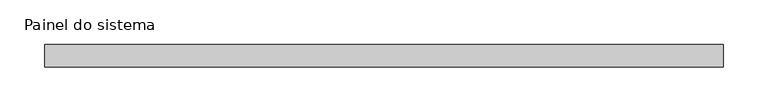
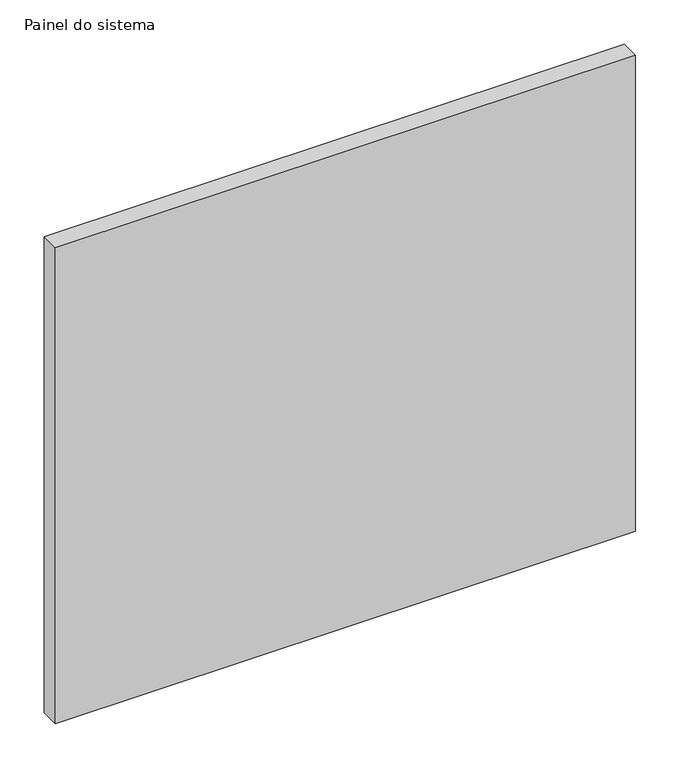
"""IFC4 building model written with IfcOpenShell, lengths in millimetres: plate geometry, Painel do sistema : Envidraçado."""

from ifc_helpers import new_model, si_unit, origin, origin_with_axes, place, context, project, spatial, polyline, outline, extrude, source, transform, mapped, element, save


def painel_do_sistema_507937a2(model_context):
    return source(origin(), model_context, "Body", "SweptSolid", [
        extrude(outline(polyline([(377.5, 24.5), (-377.5, 24.5), (-377.5, 49.5), (377.5, 49.5), (377.5, 24.5)])), origin_with_axes(), (0.0, 0.0, 1.0), 655.0),
    ])


if __name__ == "__main__":
    model = new_model("IFC4")
    model_context = context("Model", 3, world=origin())
    ifc_project = project(units=[si_unit("LENGTHUNIT", "METRE", prefix="MILLI")], contexts=[model_context])
    site = spatial("IfcSite", under=ifc_project)
    building = spatial("IfcBuilding", under=site)
    placement = place(None, origin())
    painel_do_sistema_shape = painel_do_sistema_507937a2(model_context)
    element("IfcPlate", 1, ObjectType="Painel do sistema : Envidraçado", at=placement, inside=building, context=model_context, shape_type="MappedRepresentation", body=[
        mapped(painel_do_sistema_shape, transform((0.0, 0.0, 0.0), x_axis=(1.0, 0.0, 0.0), y_axis=(0.0, 1.0, 0.0), z_axis=(0.0, 0.0, 1.0))),
    ])
    save(model, "model.ifc")
